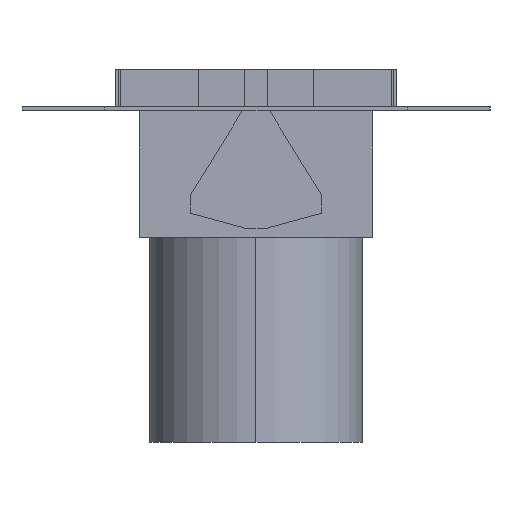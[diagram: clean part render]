
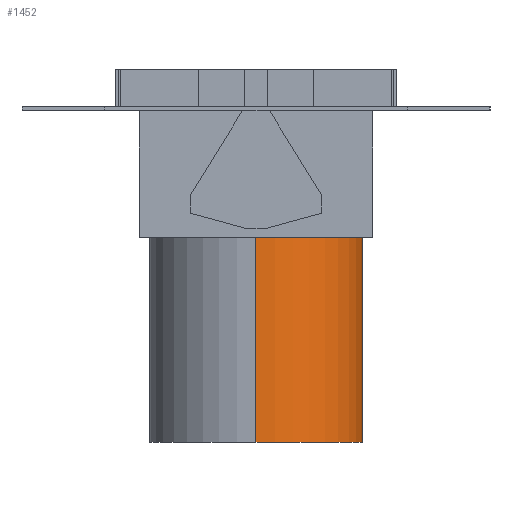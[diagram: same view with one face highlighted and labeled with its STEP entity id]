
A CAD part, left-side view. The second image highlights one B-rep face of the part: STEP entity #1452.
In plain terms, the highlighted cylindrical face has radius 57.35 mm (diameter 114.7 mm), a partial arc.
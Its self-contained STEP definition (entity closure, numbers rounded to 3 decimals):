
#17=CIRCLE('',#1572,57.35);
#18=CIRCLE('',#1573,57.35);
#21=CYLINDRICAL_SURFACE('',#1571,57.35);
#52=FACE_OUTER_BOUND('',#141,.T.);
#141=EDGE_LOOP('',(#986,#987,#988,#989));
#242=LINE('',#2080,#439);
#243=LINE('',#2083,#440);
#439=VECTOR('',#1692,304.8);
#440=VECTOR('',#1695,304.8);
#631=VERTEX_POINT('',#2076);
#632=VERTEX_POINT('',#2077);
#633=VERTEX_POINT('',#2079);
#634=VERTEX_POINT('',#2081);
#770=EDGE_CURVE('',#631,#632,#17,.T.);
#771=EDGE_CURVE('',#633,#631,#242,.T.);
#772=EDGE_CURVE('',#634,#633,#18,.T.);
#773=EDGE_CURVE('',#632,#634,#243,.T.);
#986=ORIENTED_EDGE('',*,*,#770,.F.);
#987=ORIENTED_EDGE('',*,*,#771,.F.);
#988=ORIENTED_EDGE('',*,*,#772,.F.);
#989=ORIENTED_EDGE('',*,*,#773,.F.);
#1452=ADVANCED_FACE('',(#52),#21,.T.);
#1571=AXIS2_PLACEMENT_3D('',#2075,#1688,#1689);
#1572=AXIS2_PLACEMENT_3D('',#2078,#1690,#1691);
#1573=AXIS2_PLACEMENT_3D('',#2082,#1693,#1694);
#1688=DIRECTION('center_axis',(0.,0.,1.));
#1689=DIRECTION('ref_axis',(-1.,0.,0.));
#1690=DIRECTION('center_axis',(0.,0.,1.));
#1691=DIRECTION('ref_axis',(-1.,0.,0.));
#1692=DIRECTION('',(0.,0.,1.));
#1693=DIRECTION('center_axis',(0.,0.,-1.));
#1694=DIRECTION('ref_axis',(-1.,0.,0.));
#1695=DIRECTION('',(0.,0.,-1.));
#2075=CARTESIAN_POINT('Origin',(0.,0.,
-200.));
#2076=CARTESIAN_POINT('',(-57.35,0.,-32.));
#2077=CARTESIAN_POINT('',(57.35,0.,-32.));
#2078=CARTESIAN_POINT('Origin',(0.,0.,
-32.));
#2079=CARTESIAN_POINT('',(-57.35,0.,-200.));
#2080=CARTESIAN_POINT('',(-57.35,0.,-200.));
#2081=CARTESIAN_POINT('',(57.35,0.,-200.));
#2082=CARTESIAN_POINT('Origin',(0.,0.,
-200.));
#2083=CARTESIAN_POINT('',(57.35,0.,-32.));
